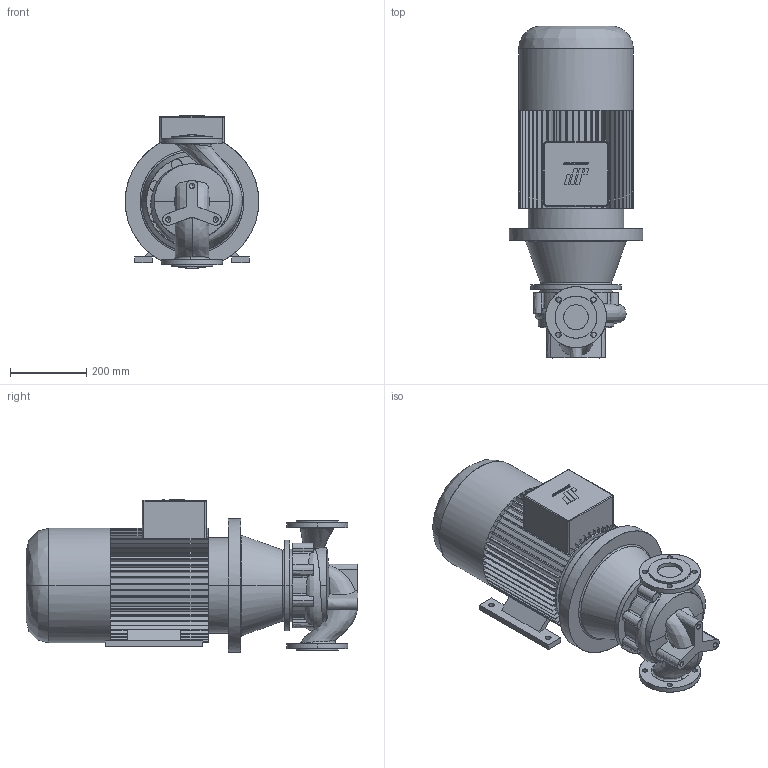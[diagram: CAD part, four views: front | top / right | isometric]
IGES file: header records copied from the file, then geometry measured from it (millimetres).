
Start section: CombiLine
Global section: file name: CLB_65-160_IEC160M.igs; native system:  By UGS Corp.; preprocessor: XPlus GENERIC/IGES 3.0; author: Stageplaats; organization: Johnson Pump Water B.V.; date: 20070713.133453; units: millimetre
Bounding box: 350 x 869.5 x 399.84 mm (x, y, z)
Surface area: 1580923 mm2 (no closed solid volume)
Topology: 0 solids, 0 shells, 579 faces, 3512 edges, 3506 vertices
Faces by surface type: bspline 579
